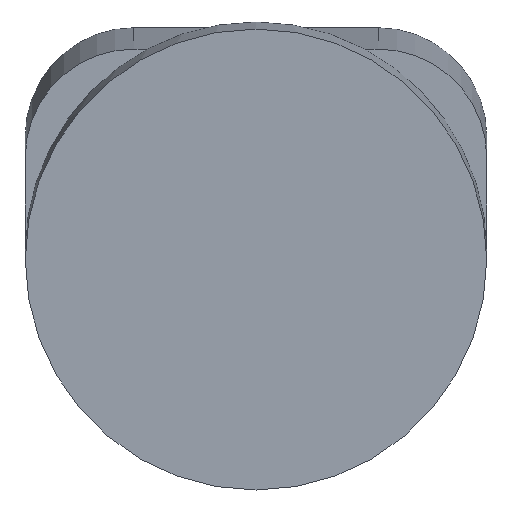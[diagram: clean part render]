
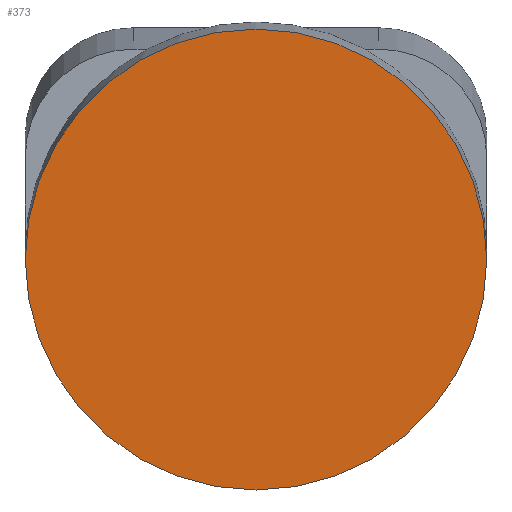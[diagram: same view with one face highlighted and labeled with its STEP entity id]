
A CAD part, front view. The second image highlights one B-rep face of the part: STEP entity #373.
In plain terms, the highlighted planar face has unit normal (0, -0.999, -0.052).
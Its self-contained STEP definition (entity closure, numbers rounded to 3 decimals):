
#137=CARTESIAN_POINT('',(-1.25,-23.385,-6.553));
#138=DIRECTION('',(0.,0.999,0.052));
#139=DIRECTION('',(-1.,0.,0.));
#140=AXIS2_PLACEMENT_3D('',#137,#138,#139);
#142=CARTESIAN_POINT('',(-1.25,-23.385,-6.553));
#143=DIRECTION('',(0.,0.999,0.052));
#144=DIRECTION('',(1.,0.,0.));
#145=AXIS2_PLACEMENT_3D('',#142,#143,#144);
#178=CARTESIAN_POINT('',(-2.1,-23.385,-6.553));
#179=CARTESIAN_POINT('',(-0.4,-23.385,-6.553));
#180=VERTEX_POINT('',#178);
#181=VERTEX_POINT('',#179);
#364=CARTESIAN_POINT('',(-12.6,-23.385,-6.553));
#365=DIRECTION('',(0.,0.999,0.052));
#366=DIRECTION('',(-1.,0.,0.));
#367=AXIS2_PLACEMENT_3D('',#364,#365,#366);
#368=PLANE('',#367);
#369=ORIENTED_EDGE('',*,*,#335,.T.);
#370=ORIENTED_EDGE('',*,*,#348,.T.);
#371=EDGE_LOOP('',(#369,#370));
#372=FACE_OUTER_BOUND('',#371,.F.);
#373=ADVANCED_FACE('',(#372),#368,.F.);
#141=CIRCLE('',#140,0.85);
#146=CIRCLE('',#145,0.85);
#335=EDGE_CURVE('',#180,#181,#141,.T.);
#348=EDGE_CURVE('',#181,#180,#146,.T.);
